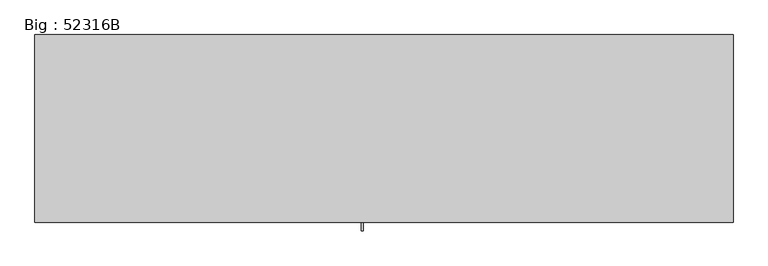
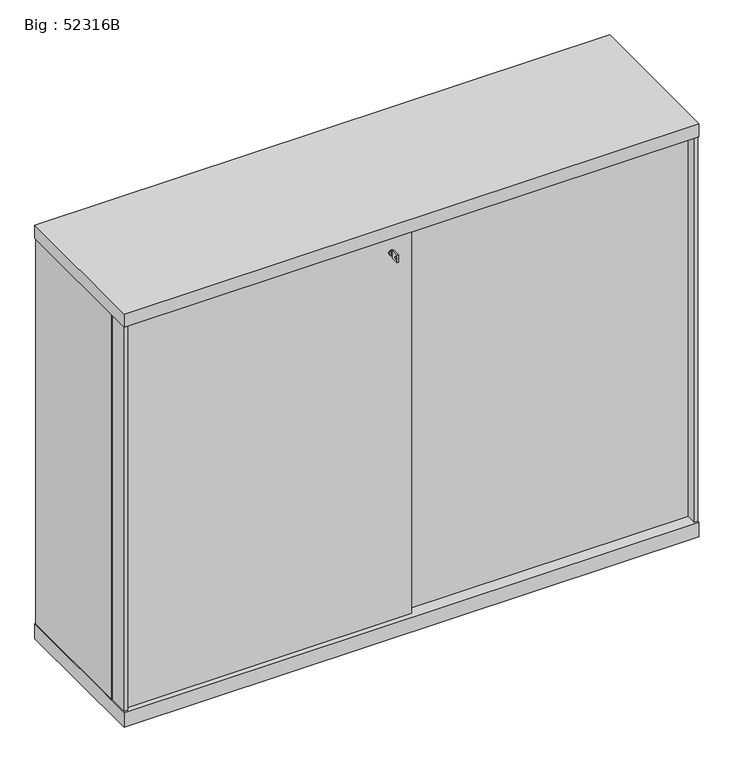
"""IFC4 building model written with IfcOpenShell, lengths in millimetres: furniture geometry, Big : 52316B."""

import ifcopenshell
import ifcopenshell.guid

model = None  # the IFC model being written
_history = None  # IfcOwnerHistory: only IFC2X3 demands one
_inside = {}  # id of a spatial element -> (the spatial element, [elements in it])
_under = {}  # id of a project, library or spatial element -> (it, [spatial elements below it])
_declared = {}  # id of a project -> (the project, [libraries it declares])
_typed = {}  # id of a type object -> (the type object, [elements of that type])
_made_of = {}  # id of a material, layer set ... -> (it, [elements and type objects made of it])


def new_model(schema):
    """Start an empty IFC model of exactly this schema.

    Asked for "IFC4X3", IfcOpenShell would pick the latest addendum, in which some entities
    have other attributes; the version numbers below select the first issue.
    IFC2X3 requires an IfcOwnerHistory on every rooted entity: one is made here for all.
    """
    global model, _history
    if schema == "IFC4X3":
        model = ifcopenshell.file(schema_version=(4, 3, 0, 0))
    else:
        model = ifcopenshell.file(schema=schema)
    _inside.clear()
    _under.clear()
    _declared.clear()
    _typed.clear()
    _made_of.clear()
    _history = None
    if model.schema == "IFC2X3":
        org = make("IfcOrganization", Name="unknown")
        user = make(
            "IfcPersonAndOrganization",
            ThePerson=make("IfcPerson", FamilyName="unknown"),
            TheOrganization=org,
        )
        app = make(
            "IfcApplication",
            ApplicationDeveloper=org,
            Version="unknown",
            ApplicationFullName="unknown",
            ApplicationIdentifier="unknown",
        )
        _history = make(
            "IfcOwnerHistory",
            OwningUser=user,
            OwningApplication=app,
            ChangeAction="ADDED",
            CreationDate=0,
        )
    return model


def make(cls, **values):
    """One entity of the class cls with the attributes given. An attribute that is None is left unset."""
    return model.create_entity(
        cls, **{name: value for name, value in values.items() if value is not None}
    )


def rooted(cls, **values):
    """An entity with a GlobalId (a new one), such as an element, a storey or a relation."""
    return make(cls, GlobalId=ifcopenshell.guid.new(), OwnerHistory=_history, **values)


def si_unit(unit_type, name, prefix=None):
    """IfcSIUnit, for example si_unit("LENGTHUNIT", "METRE", prefix="MILLI")."""
    return make("IfcSIUnit", UnitType=unit_type, Prefix=prefix, Name=name)


def assignment(units):
    """IfcUnitAssignment: the units of a project."""
    return None if units is None else make("IfcUnitAssignment", Units=units)


def point(xyz):
    """IfcCartesianPoint."""
    return None if xyz is None else make("IfcCartesianPoint", Coordinates=xyz)


def direction(xyz):
    """IfcDirection."""
    return None if xyz is None else make("IfcDirection", DirectionRatios=xyz)


def frame(location, z_axis=None, x_axis=None):
    """IfcAxis2Placement3D, a coordinate frame: its origin and axes. An axis left out is left unset."""
    return make(
        "IfcAxis2Placement3D",
        Location=point(location),
        Axis=direction(z_axis),
        RefDirection=direction(x_axis),
    )


def frame_2d(location, x_axis=None):
    """IfcAxis2Placement2D, a coordinate frame in the plane: its origin and x axis."""
    return make(
        "IfcAxis2Placement2D", Location=point(location), RefDirection=direction(x_axis)
    )


def origin():
    """The frame at (0, 0, 0) with its axes left unset."""
    return frame((0.0, 0.0, 0.0))


def origin_with_axes():
    """The frame at (0, 0, 0) with the z axis (0, 0, 1) and the x axis (1, 0, 0) written out."""
    return frame((0.0, 0.0, 0.0), z_axis=(0.0, 0.0, 1.0), x_axis=(1.0, 0.0, 0.0))


def place(relative_to, where):
    """IfcLocalPlacement: puts the frame where relative to a parent placement (None: the world)."""
    return make(
        "IfcLocalPlacement", PlacementRelTo=relative_to, RelativePlacement=where
    )


def context(
    kind, dimensions, precision=None, world=None, true_north=None, identifier=None
):
    """IfcGeometricRepresentationContext, for example the 3D "Model" context."""
    return make(
        "IfcGeometricRepresentationContext",
        ContextIdentifier=identifier,
        ContextType=kind,
        CoordinateSpaceDimension=dimensions,
        Precision=precision,
        WorldCoordinateSystem=world,
        TrueNorth=true_north,
    )


def project(units=None, contexts=None):
    """IfcProject with its units and contexts."""
    return rooted(
        "IfcProject",
        Name="project",
        RepresentationContexts=contexts,
        UnitsInContext=assignment(units),
    )


def spatial(cls, under=None, at=None, **own):
    """A site, building, storey or space (cls), placed at a placement, below another one or the project."""
    s = rooted(cls, ObjectPlacement=at, **own)
    if under is not None:
        _under.setdefault(under.id(), (under, []))[1].append(s)
    return s


def polyline(points):
    """IfcPolyline through the points."""
    return make("IfcPolyline", Points=[point(p) for p in points])


def circle_curve(where, radius):
    """IfcCircle in the frame where."""
    return make("IfcCircle", Position=where, Radius=radius)


def trimmed(basis, trim1, trim2, sense, master):
    """IfcTrimmedCurve: the piece of a basis curve between two trims."""
    return make(
        "IfcTrimmedCurve",
        BasisCurve=basis,
        Trim1=trim1,
        Trim2=trim2,
        SenseAgreement=sense,
        MasterRepresentation=master,
    )


def segment(curve, same_sense, transition):
    """IfcCompositeCurveSegment."""
    return make(
        "IfcCompositeCurveSegment",
        Transition=transition,
        SameSense=same_sense,
        ParentCurve=curve,
    )


def composite_curve(segments, self_intersect=None):
    """IfcCompositeCurve: segments joined end to end."""
    return make("IfcCompositeCurve", Segments=segments, SelfIntersect=self_intersect)


def outline(outer, holes=None, kind="AREA"):
    """IfcArbitraryClosedProfileDef: a profile drawn as a closed curve; with holes, ...WithVoids."""
    if holes is None:
        return make("IfcArbitraryClosedProfileDef", ProfileType=kind, OuterCurve=outer)
    return make(
        "IfcArbitraryProfileDefWithVoids",
        ProfileType=kind,
        OuterCurve=outer,
        InnerCurves=holes,
    )


def extrude(swept, where, along, depth):
    """IfcExtrudedAreaSolid: the profile swept, set in the frame where, extruded along a direction by depth."""
    return make(
        "IfcExtrudedAreaSolid",
        SweptArea=swept,
        Position=where,
        ExtrudedDirection=direction(along),
        Depth=depth,
    )


def shape(context_of_items, identifier, shape_type, items):
    """IfcShapeRepresentation: the items that make up one representation, for example the "Body"."""
    return make(
        "IfcShapeRepresentation",
        ContextOfItems=context_of_items,
        RepresentationIdentifier=identifier,
        RepresentationType=shape_type,
        Items=items,
    )


def source(mapping_origin, context_of_items, identifier, shape_type, items):
    """IfcRepresentationMap: a shape defined once, which mapped items show again and again."""
    return make(
        "IfcRepresentationMap",
        MappingOrigin=mapping_origin,
        MappedRepresentation=shape(context_of_items, identifier, shape_type, items),
    )


def transform(
    local_origin,
    x_axis=None,
    y_axis=None,
    z_axis=None,
    scale=None,
    scale2=None,
    scale3=None,
    uniform=True,
):
    """IfcCartesianTransformationOperator3D, or its non-uniform kind. x_axis, y_axis, z_axis: its Axis1, 2, 3."""
    if uniform:
        return make(
            "IfcCartesianTransformationOperator3D",
            Axis1=direction(x_axis),
            Axis2=direction(y_axis),
            LocalOrigin=point(local_origin),
            Scale=scale,
            Axis3=direction(z_axis),
        )
    return make(
        "IfcCartesianTransformationOperator3DnonUniform",
        Axis1=direction(x_axis),
        Axis2=direction(y_axis),
        LocalOrigin=point(local_origin),
        Scale=scale,
        Axis3=direction(z_axis),
        Scale2=scale2,
        Scale3=scale3,
    )


def mapped(mapping_source, mapping_target):
    """IfcMappedItem: shows the shape of a source again, moved by a transform."""
    return make(
        "IfcMappedItem", MappingSource=mapping_source, MappingTarget=mapping_target
    )


def made_of(thing, what):
    """Note that an element or type object is made of a material, layer set ...; save() writes the relation."""
    if what is not None:
        _made_of.setdefault(what.id(), (what, []))[1].append(thing)
    return thing


def element(
    cls,
    number,
    at=None,
    inside=None,
    cuts=None,
    type_object=None,
    material=None,
    context=None,
    identifier="Body",
    shape_type=None,
    held_by="IfcProductDefinitionShape",
    body=None,
    shapes=None,
    **own,
):
    """One element of the class cls, such as IfcWall. Its Tag is "e" and its number.

    at: its placement. inside: the storey or other place that contains it. cuts: it is an
    opening in that element (IfcRelVoidsElement). A single representation is given by context,
    identifier, shape_type and body (its items); several are given by shapes. held_by: the class
    of the entity that holds the representations. save() writes the other relations.
    """
    e = rooted(cls, Tag="e%d" % number, ObjectPlacement=at, **own)
    if body is not None:
        shapes = [shape(context, identifier, shape_type, body)]
    if shapes is not None:
        e.Representation = make(held_by, Representations=shapes)
    if inside is not None:
        _inside.setdefault(inside.id(), (inside, []))[1].append(e)
    if cuts is not None:
        rooted(
            "IfcRelVoidsElement", RelatingBuildingElement=cuts, RelatedOpeningElement=e
        )
    if type_object is not None:
        _typed.setdefault(type_object.id(), (type_object, []))[1].append(e)
    return made_of(e, material)


def aggregate(whole, parts):
    """IfcRelAggregates: a whole, such as a stair, and the parts it consists of."""
    return rooted("IfcRelAggregates", RelatingObject=whole, RelatedObjects=parts)


def save(model, path):
    """Write the relations noted so far, then the file.

    IfcRelAggregates (storeys below a building ...), IfcRelContainedInSpatialStructure (elements
    in a storey), IfcRelDefinesByType, IfcRelAssociatesMaterial and IfcRelDeclares: one each for
    every whole, place, type object, material and project.
    """
    for whole, parts in _under.values():
        aggregate(whole, parts)
    for where, things in _inside.values():
        rooted(
            "IfcRelContainedInSpatialStructure",
            RelatedElements=things,
            RelatingStructure=where,
        )
    for kind, things in _typed.values():
        rooted("IfcRelDefinesByType", RelatedObjects=things, RelatingType=kind)
    for what, things in _made_of.values():
        rooted("IfcRelAssociatesMaterial", RelatedObjects=things, RelatingMaterial=what)
    for by, libraries in _declared.values():
        rooted("IfcRelDeclares", RelatingContext=by, RelatedDefinitions=libraries)
    model.write(path)


def big_52316b_a05a045e(model_context):
    return source(origin(), model_context, "Body", "SweptSolid", [
        extrude(outline(polyline([(-20.0, 1121.014113), (-20.0, 1143.0), (2.0, 1143.0), (2.0, 1121.014113), (-20.0, 1121.014113)]), holes=[composite_curve([segment(trimmed(circle_curve(frame_2d((-13.75, 1132.0070565)), 3.2230706), [point((-13.75, 1135.2301271))], [point((-13.75, 1128.7839859))], True, "CARTESIAN"), True, "CONTINUOUS"), segment(trimmed(circle_curve(frame_2d((-13.75, 1132.0070565)), 3.2230706), [point((-13.75, 1128.7839859))], [point((-13.75, 1135.2301271))], True, "CARTESIAN"), True, "CONTINUOUS")], self_intersect=False)]), frame((-52.0, 0.0, 0.0), z_axis=(1.0, 0.0, 0.0), x_axis=(0.0, 1.0, 0.0)), (0.0, 0.0, 1.0), 4.0416064),
        extrude(outline(polyline([(-48.9583936, 2.0), (-51.0, 2.0), (-51.0, 8.0), (-48.9583936, 8.0), (-48.9583936, 2.0)])), frame((0.0, 0.0, 1128.014113), z_axis=(0.0, 0.0, 1.0), x_axis=(1.0, 0.0, 0.0)), (0.0, 0.0, 1.0), 7.985887),
        extrude(outline(composite_curve([segment(trimmed(circle_curve(frame_2d((1132.0, -50.0)), 7.0), [point((1132.0, -57.0))], [point((1132.0, -43.0))], False, "CARTESIAN"), True, "CONTINUOUS"), segment(trimmed(circle_curve(frame_2d((1132.0, -50.0)), 7.0), [point((1132.0, -43.0))], [point((1132.0, -57.0))], False, "CARTESIAN"), True, "CONTINUOUS")], self_intersect=False)), frame((0.0, 8.0, 0.0), z_axis=(0.0, 1.0, 0.0), x_axis=(0.0, 0.0, 1.0)), (0.0, 0.0, 1.0), 4.0),
        extrude(outline(polyline([(798.5, 2.0), (788.5, 2.0), (788.5, 32.0), (-6.5, 32.0), (-6.5, 48.0), (788.5, 48.0), (788.5, 58.0), (798.5, 58.0), (798.5, 2.0)])), frame((0.0, 0.0, 50.0), z_axis=(0.0, 0.0, 1.0), x_axis=(1.0, 0.0, 0.0)), (0.0, 0.0, 1.0), 1130.0),
        extrude(outline(polyline([(-798.5, 2.0), (-798.5, 58.0), (-788.5, 58.0), (-788.5, 28.0), (6.5, 28.0), (6.5, 12.0), (-788.5, 12.0), (-788.5, 2.0), (-798.5, 2.0)])), frame((0.0, 0.0, 50.0), z_axis=(0.0, 0.0, 1.0), x_axis=(1.0, 0.0, 0.0)), (0.0, 0.0, 1.0), 1130.0),
        extrude(outline(polyline([(800.0, 0.0), (-800.0, 0.0), (-800.0, 430.0), (800.0, 430.0), (800.0, 0.0)])), frame((0.0, 0.0, 5.0), z_axis=(0.0, 0.0, 1.0), x_axis=(1.0, 0.0, 0.0)), (0.0, 0.0, 1.0), 43.0),
        extrude(outline(polyline([(780.5000002, 428.0), (798.5, 428.0), (798.5, 62.0), (780.5000002, 62.0), (780.5000002, 428.0)])), frame((0.0, 0.0, 48.0), z_axis=(0.0, 0.0, 1.0), x_axis=(1.0, 0.0, 0.0)), (0.0, 0.0, 1.0), 1134.0),
        extrude(outline(polyline([(-780.5000002, 408.4999997), (-780.5000002, 420.9999997), (780.5000002, 420.9999997), (780.5000002, 408.4999997), (-780.5000002, 408.4999997)])), frame((0.0, 0.0, 48.0), z_axis=(0.0, 0.0, 1.0), x_axis=(1.0, 0.0, 0.0)), (0.0, 0.0, 1.0), 1134.0),
        extrude(outline(polyline([(-780.5000002, 428.0), (-780.5000002, 62.0), (-798.5, 62.0), (-798.5, 428.0), (-780.5000002, 428.0)])), frame((0.0, 0.0, 48.0), z_axis=(0.0, 0.0, 1.0), x_axis=(1.0, 0.0, 0.0)), (0.0, 0.0, 1.0), 1134.0),
        extrude(outline(polyline([(800.0, 0.0), (-800.0, 0.0), (-800.0, 430.0), (800.0, 430.0), (800.0, 0.0)])), frame((0.0, 0.0, 1182.0), z_axis=(0.0, 0.0, 1.0), x_axis=(1.0, 0.0, 0.0)), (0.0, 0.0, 1.0), 38.0),
        extrude(outline(composite_curve([segment(trimmed(circle_curve(frame_2d((-760.5000002, 336.0000021)), 20.0), [point((-780.5000002, 336.0000021))], [point((-740.5000002, 336.0000021))], False, "CARTESIAN"), True, "CONTINUOUS"), segment(trimmed(circle_curve(frame_2d((-760.5000002, 336.0000021)), 20.0), [point((-740.5000002, 336.0000021))], [point((-780.5000002, 336.0000021))], False, "CARTESIAN"), True, "CONTINUOUS")], self_intersect=False)), origin_with_axes(), (0.0, 0.0, 1.0), 5.0),
        extrude(outline(composite_curve([segment(trimmed(circle_curve(frame_2d((-760.5000002, 98.9999918)), 20.0), [point((-780.5000002, 98.9999918))], [point((-740.5000002, 98.9999918))], False, "CARTESIAN"), True, "CONTINUOUS"), segment(trimmed(circle_curve(frame_2d((-760.5000002, 98.9999918)), 20.0), [point((-740.5000002, 98.9999918))], [point((-780.5000002, 98.9999918))], False, "CARTESIAN"), True, "CONTINUOUS")], self_intersect=False)), origin_with_axes(), (0.0, 0.0, 1.0), 5.0),
        extrude(outline(composite_curve([segment(trimmed(circle_curve(frame_2d((760.5000002, 336.0000021)), 20.0), [point((740.5000002, 336.0000021))], [point((780.5000002, 336.0000021))], False, "CARTESIAN"), True, "CONTINUOUS"), segment(trimmed(circle_curve(frame_2d((760.5000002, 336.0000021)), 20.0), [point((780.5000002, 336.0000021))], [point((740.5000002, 336.0000021))], False, "CARTESIAN"), True, "CONTINUOUS")], self_intersect=False)), origin_with_axes(), (0.0, 0.0, 1.0), 5.0),
        extrude(outline(composite_curve([segment(trimmed(circle_curve(frame_2d((760.5000002, 98.9999918)), 20.0), [point((740.5000002, 98.9999918))], [point((780.5000002, 98.9999918))], False, "CARTESIAN"), True, "CONTINUOUS"), segment(trimmed(circle_curve(frame_2d((760.5000002, 98.9999918)), 20.0), [point((780.5000002, 98.9999918))], [point((740.5000002, 98.9999918))], False, "CARTESIAN"), True, "CONTINUOUS")], self_intersect=False)), origin_with_axes(), (0.0, 0.0, 1.0), 5.0),
    ])


if __name__ == "__main__":
    model = new_model("IFC4")
    model_context = context("Model", 3, world=origin())
    ifc_project = project(units=[si_unit("LENGTHUNIT", "METRE", prefix="MILLI")], contexts=[model_context])
    site = spatial("IfcSite", under=ifc_project)
    building = spatial("IfcBuilding", under=site)
    placement = place(None, origin())
    big_52316b_shape = big_52316b_a05a045e(model_context)
    element("IfcFurniture", 1, ObjectType="Big : 52316B", at=placement, inside=building, context=model_context, shape_type="MappedRepresentation", body=[
        mapped(big_52316b_shape, transform((0.0, 0.0, 0.0), x_axis=(1.0, 0.0, 0.0), y_axis=(0.0, 1.0, 0.0), z_axis=(0.0, 0.0, 1.0))),
    ])
    save(model, "model.ifc")
